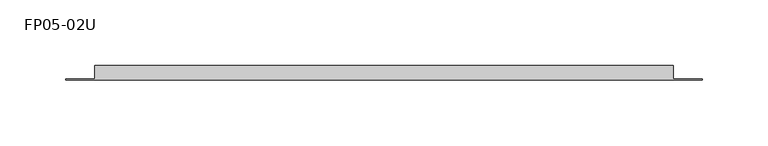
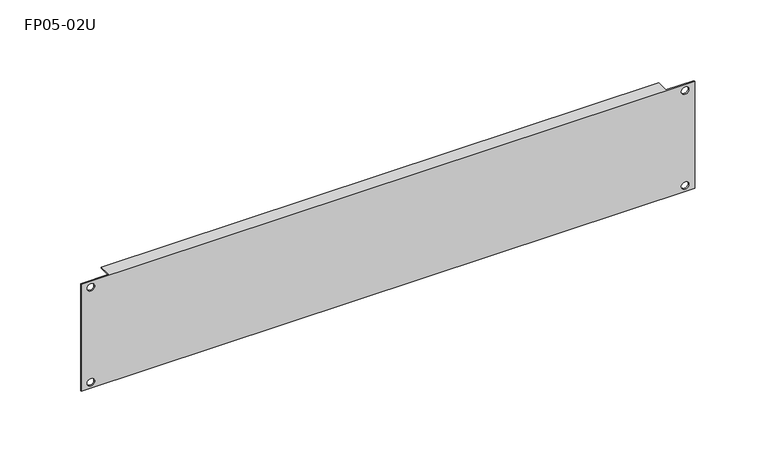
"""IFC4 building model written with IfcOpenShell, lengths in millimetres: proxy geometry, Фальш-панель : FP05-02U."""

from ifc_helpers import new_model, si_unit, frame, origin, place, context, project, spatial, polyline, circle_curve, source, transform, mapped, element, save
from ifc_brep_helpers import plane_surface, revolved_surface, advanced_brep


def fp05_02u_35c9f280(model_context):
    return source(origin(), model_context, "Body", "AdvancedBrep", [
        advanced_brep(
        [(-241.25, 0.0, 89.0), (-241.25, -1.0, 89.0), (241.25, -1.0, 89.0), (241.25, 0.0, 89.0), (219.25, 0.0, 89.0), (219.25, 10.0, 89.0), (-219.25, 10.0, 89.0), (-219.25, 0.0, 89.0), (241.25, 0.0, 0.0), (241.25, -1.0, 0.0), (-241.25, -1.0, 0.0), (-241.25, 0.0, 0.0), (-219.25, 0.0, 0.0), (-219.25, 10.0, 0.0), (219.25, 10.0, 0.0), (219.25, 0.0, 0.0), (219.25, 0.0, 1.0), (-219.25, 0.0, 1.0), (-219.25, 0.0, 88.0), (219.25, 0.0, 88.0), (-230.8081342, 0.0, 84.0), (-236.7427021, 0.0, 84.0), (-230.8081342, 0.0, 5.0), (-236.7427021, 0.0, 5.0), (236.7427021, 0.0, 84.0), (230.8081342, 0.0, 84.0), (236.7427021, 0.0, 5.0), (230.8081342, 0.0, 5.0), (-236.7427021, -1.0, 84.0), (-230.8081342, -1.0, 84.0), (-236.7427021, -1.0, 5.0), (-230.8081342, -1.0, 5.0), (230.8081342, -1.0, 84.0), (236.7427021, -1.0, 84.0), (230.8081342, -1.0, 5.0), (236.7427021, -1.0, 5.0), (219.25, 10.0, 88.0), (219.25, 10.0, 1.0), (-219.25, 10.0, 88.0), (-219.25, 10.0, 1.0)],
        [
            (0, 1),
            (1, 2),
            (2, 3),
            (3, 4),
            (4, 5),
            (5, 6),
            (6, 7),
            (7, 0),
            (8, 9),
            (9, 10),
            (10, 11),
            (11, 12),
            (12, 13),
            (13, 14),
            (14, 15),
            (15, 8),
            (3, 8),
            (15, 16),
            (16, 17),
            (17, 12),
            (11, 0),
            (7, 18),
            (18, 19),
            (19, 4),
            (20, 21, circle_curve(frame((-233.7754182, 0.0, 84.0), z_axis=(0.0, -1.0, 0.0), x_axis=(-1.0, 0.0, 0.0)), 2.967284)),
            (21, 20, circle_curve(frame((-233.7754182, 0.0, 84.0), z_axis=(0.0, -1.0, 0.0), x_axis=(-1.0, 0.0, 0.0)), 2.967284)),
            (22, 23, circle_curve(frame((-233.7754182, 0.0, 5.0), z_axis=(0.0, -1.0, 0.0), x_axis=(-1.0, 0.0, 0.0)), 2.967284)),
            (23, 22, circle_curve(frame((-233.7754182, 0.0, 5.0), z_axis=(0.0, -1.0, 0.0), x_axis=(-1.0, 0.0, 0.0)), 2.967284)),
            (24, 25, circle_curve(frame((233.7754182, 0.0, 84.0), z_axis=(0.0, -1.0, 0.0), x_axis=(-1.0, 0.0, 0.0)), 2.967284)),
            (25, 24, circle_curve(frame((233.7754182, 0.0, 84.0), z_axis=(0.0, -1.0, 0.0), x_axis=(-1.0, 0.0, 0.0)), 2.967284)),
            (26, 27, circle_curve(frame((233.7754182, 0.0, 5.0), z_axis=(0.0, -1.0, 0.0), x_axis=(-1.0, 0.0, 0.0)), 2.967284)),
            (27, 26, circle_curve(frame((233.7754182, 0.0, 5.0), z_axis=(0.0, -1.0, 0.0), x_axis=(-1.0, 0.0, 0.0)), 2.967284)),
            (10, 1),
            (9, 2),
            (28, 29, circle_curve(frame((-233.7754182, -1.0, 84.0), z_axis=(0.0, 1.0, 0.0), x_axis=(-1.0, 0.0, 0.0)), 2.967284)),
            (29, 28, circle_curve(frame((-233.7754182, -1.0, 84.0), z_axis=(0.0, 1.0, 0.0), x_axis=(-1.0, 0.0, 0.0)), 2.967284)),
            (30, 31, circle_curve(frame((-233.7754182, -1.0, 5.0), z_axis=(0.0, 1.0, 0.0), x_axis=(-1.0, 0.0, 0.0)), 2.967284)),
            (31, 30, circle_curve(frame((-233.7754182, -1.0, 5.0), z_axis=(0.0, 1.0, 0.0), x_axis=(-1.0, 0.0, 0.0)), 2.967284)),
            (32, 33, circle_curve(frame((233.7754182, -1.0, 84.0), z_axis=(0.0, 1.0, 0.0), x_axis=(-1.0, 0.0, 0.0)), 2.967284)),
            (33, 32, circle_curve(frame((233.7754182, -1.0, 84.0), z_axis=(0.0, 1.0, 0.0), x_axis=(-1.0, 0.0, 0.0)), 2.967284)),
            (34, 35, circle_curve(frame((233.7754182, -1.0, 5.0), z_axis=(0.0, 1.0, 0.0), x_axis=(-1.0, 0.0, 0.0)), 2.967284)),
            (35, 34, circle_curve(frame((233.7754182, -1.0, 5.0), z_axis=(0.0, 1.0, 0.0), x_axis=(-1.0, 0.0, 0.0)), 2.967284)),
            (28, 21),
            (20, 29),
            (30, 23),
            (22, 31),
            (32, 25),
            (24, 33),
            (34, 27),
            (26, 35),
            (19, 36),
            (36, 5),
            (37, 16),
            (14, 37),
            (6, 38),
            (38, 18),
            (39, 13),
            (17, 39),
            (39, 37),
            (38, 36),
        ],
        [
            plane_surface(frame((-241.25, 0.0, 89.0), z_axis=(0.0, 0.0, 1.0), x_axis=(-1.0, 0.0, 0.0))),
            plane_surface(frame((-241.25, 0.0, 0.0), z_axis=(0.0, 0.0, -1.0), x_axis=(1.0, 0.0, 0.0))),
            plane_surface(frame((241.25, 0.0, 89.0), z_axis=(0.0, 1.0, 0.0), x_axis=(0.0, 0.0, -1.0))),
            plane_surface(frame((-241.25, 0.0, 89.0), z_axis=(-1.0, 0.0, 0.0), x_axis=(0.0, 0.0, -1.0))),
            plane_surface(frame((-241.25, -1.0, 89.0), z_axis=(0.0, -1.0, 0.0), x_axis=(0.0, 0.0, -1.0))),
            plane_surface(frame((241.25, -1.0, 89.0), z_axis=(1.0, 0.0, 0.0), x_axis=(0.0, 0.0, -1.0))),
            revolved_surface(polyline([(-236.7427022, -1.0, 84.0), (-236.7427022, 0.0, 84.0)]), (-233.7754182, 0.0, 84.0), (0.0, -1.0, 0.0)),
            revolved_surface(polyline([(-236.7427022, -1.0, 5.0), (-236.7427022, 0.0, 5.0)]), (-233.7754182, -1.0, 5.0), (0.0, -1.0, 0.0)),
            revolved_surface(polyline([(230.80813419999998, -1.0, 84.0), (230.80813419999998, 0.0, 84.0)]), (233.7754182, -1.0, 84.0), (0.0, -1.0, 0.0)),
            revolved_surface(polyline([(230.80813419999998, -1.0, 5.0), (230.80813419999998, 0.0, 5.0)]), (233.7754182, -1.0, 5.0), (0.0, -1.0, 0.0)),
            plane_surface(frame((219.25, 0.0, 89.0), z_axis=(1.0, 0.0, 0.0), x_axis=(0.0, 0.0, -1.0))),
            plane_surface(frame((-219.25, 0.0, 89.0), z_axis=(-1.0, 0.0, 0.0), x_axis=(0.0, 0.0, 1.0))),
            plane_surface(frame((219.25, 10.0, 0.0), z_axis=(0.0, 1.0, 0.0), x_axis=(-1.0, 0.0, 0.0))),
            plane_surface(frame((219.25, 0.0, 88.0), z_axis=(0.0, 0.0, -1.0), x_axis=(-1.0, 0.0, 0.0))),
            plane_surface(frame((219.25, 10.0, 1.0), z_axis=(0.0, 0.0, 1.0), x_axis=(-1.0, 0.0, 0.0))),
            plane_surface(frame((219.25, 10.0, 88.0), z_axis=(0.0, 1.0, 0.0), x_axis=(-1.0, 0.0, 0.0))),
        ],
        [
            (0, [[1, 2, 3, 4, 5, 6, 7, 8]]),
            (1, [[9, 10, 11, 12, 13, 14, 15, 16]]),
            (2, [[17, -16, 18, 19, 20, -12, 21, -8, 22, 23, 24, -4], [25, 26], [27, 28], [29, 30], [31, 32]]),
            (3, [[-1, -21, -11, 33]]),
            (4, [[-2, -33, -10, 34], [35, 36], [37, 38], [39, 40], [41, 42]]),
            (5, [[-3, -34, -9, -17]]),
            (6, [[43, -25, 44, -35]]),
            (6, [[-43, -36, -44, -26]]),
            (7, [[45, -27, 46, -37]]),
            (7, [[-45, -38, -46, -28]]),
            (8, [[47, -29, 48, -39]]),
            (8, [[-47, -40, -48, -30]]),
            (9, [[49, -31, 50, -41]]),
            (9, [[-49, -42, -50, -32]]),
            (10, [[51, 52, -5, -24]]),
            (10, [[53, -18, -15, 54]]),
            (11, [[-7, 55, 56, -22]]),
            (11, [[57, -13, -20, 58]]),
            (12, [[-54, -14, -57, 59]]),
            (13, [[-51, -23, -56, 60]]),
            (14, [[-53, -59, -58, -19]]),
            (15, [[-52, -60, -55, -6]]),
        ],
    ),
    ])


if __name__ == "__main__":
    model = new_model("IFC4")
    model_context = context("Model", 3, world=origin())
    ifc_project = project(units=[si_unit("LENGTHUNIT", "METRE", prefix="MILLI")], contexts=[model_context])
    site = spatial("IfcSite", under=ifc_project)
    building = spatial("IfcBuilding", under=site)
    placement = place(None, origin())
    fp05_02u_shape = fp05_02u_35c9f280(model_context)
    element("IfcBuildingElementProxy", 1, Name="Фальш-панель : FP05-02U", ObjectType="Фальш-панель : FP05-02U", at=placement, inside=building, context=model_context, shape_type="MappedRepresentation", body=[
        mapped(fp05_02u_shape, transform((0.0, 0.0, 0.0), x_axis=(1.0, 0.0, 0.0), y_axis=(0.0, 1.0, 0.0), z_axis=(0.0, 0.0, 1.0))),
    ])
    save(model, "model.ifc")
